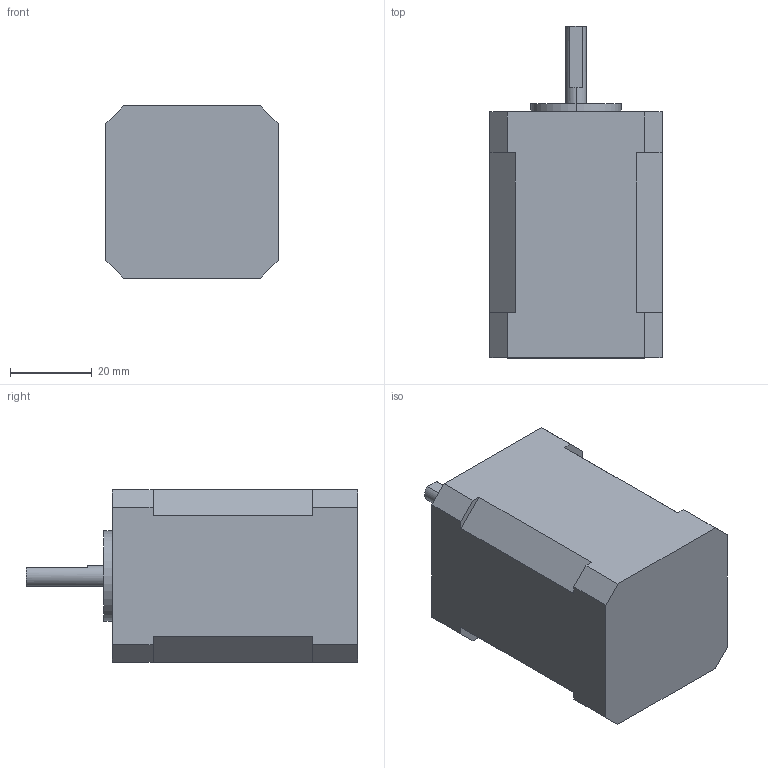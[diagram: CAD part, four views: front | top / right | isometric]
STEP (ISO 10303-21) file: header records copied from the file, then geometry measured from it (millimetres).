
FILE_DESCRIPTION (( 'STEP AP214' ), '1' );
FILE_NAME ('42HS60-D0521-009.STEP', '2020-11-14T06:52:12', ( 'wimxt.com' ), ( 'wimxt.com' ), 'SwSTEP 2.0', 'SolidWorks 2014', '' );
FILE_SCHEMA (( 'AUTOMOTIVE_DESIGN' ));
Length unit declared in the file: millimetre
Products named in the file (1): 42HS60-D0521-009
Bounding box: 42 x 81 x 42 mm (x, y, z)
Volume: 101556.3 mm3; surface area: 15497.5 mm2
Topology: 1 solids, 1 shells, 46 faces, 114 edges, 76 vertices
Faces by surface type: plane 34, cylinder 12
Entity records: 1398 total; most frequent: CARTESIAN_POINT 237, DIRECTION 234, ORIENTED_EDGE 228, EDGE_CURVE 114, LINE 88, VECTOR 88, VERTEX_POINT 76, AXIS2_PLACEMENT_3D 73
